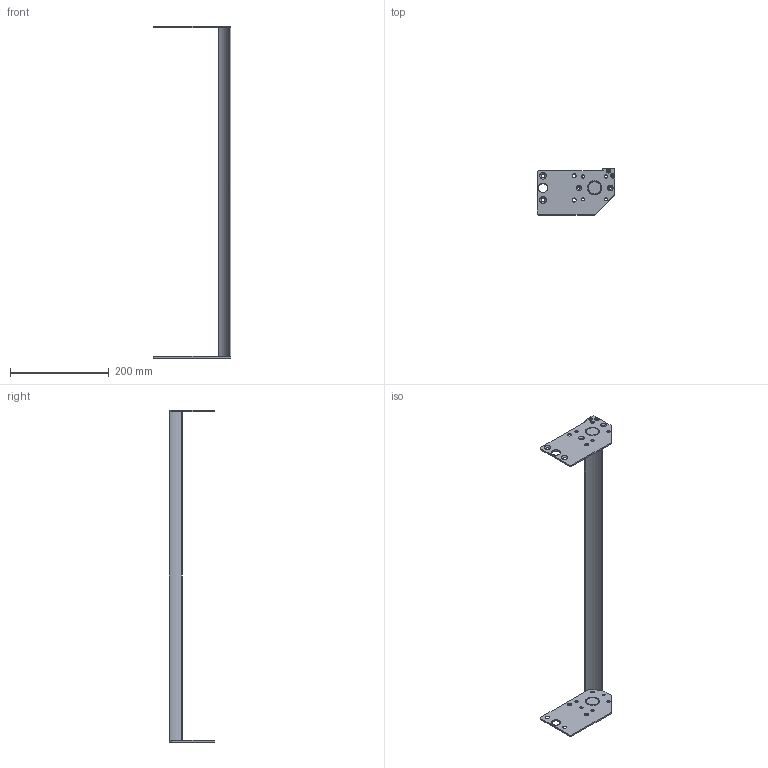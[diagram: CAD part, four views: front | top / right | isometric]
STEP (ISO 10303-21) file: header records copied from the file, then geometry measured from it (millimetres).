
FILE_DESCRIPTION((''),'2;1');
FILE_NAME('351039-26_ASM','2023-03-14T',('jenni.wallner'),(''),'PRO/ENGINEER BY PARAMETRIC TECHNOLOGY CORPORATION, 2012420','PRO/ENGINEER BY PARAMETRIC TECHNOLOGY CORPORATION, 2012420','');
FILE_SCHEMA(('CONFIG_CONTROL_DESIGN'));
Length unit declared in the file: inch
Products named in the file (6): 9304XXM_930410M; 350541; 350539-WW_350539-26; 350540; ASM0001_ASM; 351039-26_ASM
Assembly tree (8 placements, depth 3):
  351039-26_ASM
    ASM0001_ASM
      9304XXM_930410M  x4
      350541
      350539-WW_350539-26
      350540
Bounding box: 157.96 x 92.74 x 672.49 mm (x, y, z)
Volume: 262909.7 mm3; surface area: 129876.2 mm2
Topology: 7 solids, 7 shells, 227 faces, 567 edges, 354 vertices
Faces by surface type: cylinder 93, cone 68, plane 66
Entity records: 5405 total; most frequent: DIRECTION 978, CARTESIAN_POINT 966, ORIENTED_EDGE 852, EDGE_CURVE 426, AXIS2_PLACEMENT_3D 390, VERTEX_POINT 276, EDGE_LOOP 216, CIRCLE 214
